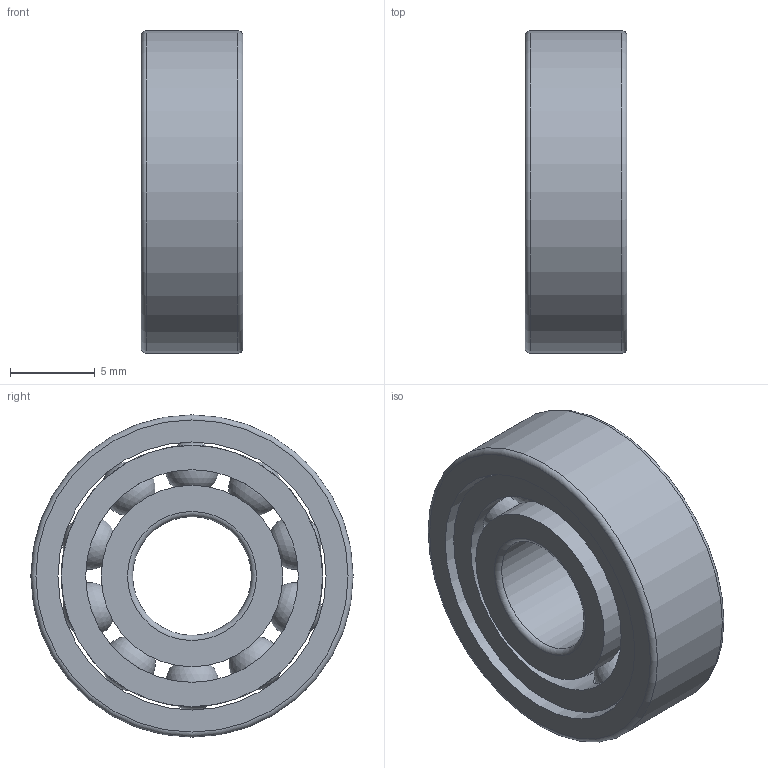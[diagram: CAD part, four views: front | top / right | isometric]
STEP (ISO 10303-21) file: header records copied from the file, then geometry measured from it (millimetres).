
FILE_DESCRIPTION(/* description */ (''),/* implementation_level */ '2;1');
FILE_NAME(/* name */ 'S_607_TA.step',/* time_stamp */ '2013-03-06T14:43:02+01:00',/* author */ ('Marian'),/* organization */ ('GMN'),/* preprocessor_version */ 'ST-DEVELOPER v11',/* originating_system */ 'SIEMENS UGS NX 6.0',/* authorisation */ '');
FILE_SCHEMA (('CONFIG_CONTROL_DESIGN'));
Length unit declared in the file: millimetre
Products named in the file (1): S_607_TA
Bounding box: 6 x 19 x 19 mm (x, y, z)
Volume: 1123.9 mm3; surface area: 2093.2 mm2
Topology: 13 solids, 13 shells, 40 faces, 98 edges, 62 vertices
Faces by surface type: cylinder 17, sphere 10, torus 6, plane 6, cone 1
Full cylindrical faces by diameter (mm): 3.375 x10, 7 x1, 10.7 x2, 12.535 x1, 15.4 x1, 15.8 x1, 19 x1
Entity records: 2038 total; most frequent: CARTESIAN_POINT 1271, DIRECTION 122, FACE_BOUND 90, EDGE_LOOP 80, ORIENTED_EDGE 80, AXIS2_PLACEMENT_3D 61, VERTEX_POINT 50, EDGE_CURVE 40
